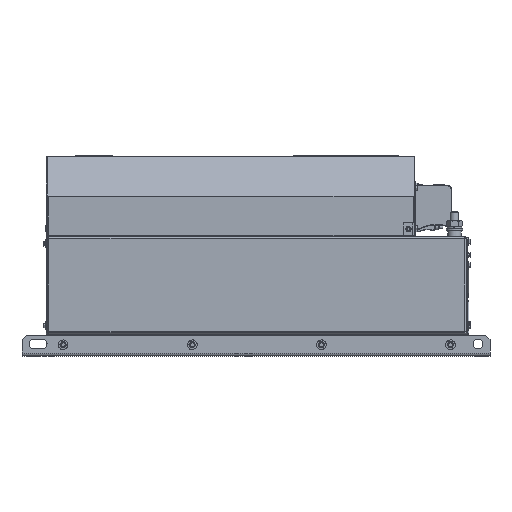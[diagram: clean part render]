
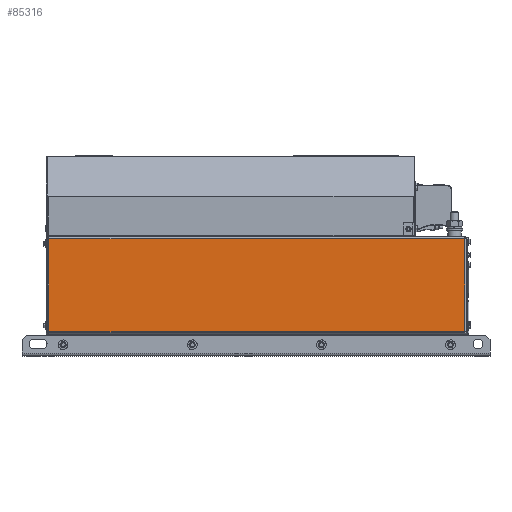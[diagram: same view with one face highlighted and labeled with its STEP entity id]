
A CAD part, left-side view. The second image highlights one B-rep face of the part: STEP entity #85316.
In plain terms, the highlighted planar face has unit normal (-1, 0, 0).
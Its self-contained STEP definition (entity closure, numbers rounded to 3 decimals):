
#5007=PLANE('',#92120);
#11093=FACE_OUTER_BOUND('',#16147,.T.);
#16147=EDGE_LOOP('',(#74885,#74886,#74887,#74888));
#23324=LINE('',#175700,#30477);
#23327=LINE('',#175709,#30480);
#23328=LINE('',#175713,#30481);
#23329=LINE('',#175714,#30482);
#30477=VECTOR('',#112230,10.);
#30480=VECTOR('',#112243,10.);
#30481=VECTOR('',#112248,10.);
#30482=VECTOR('',#112249,10.);
#40561=VERTEX_POINT('',#174898);
#40700=VERTEX_POINT('',#175530);
#40709=VERTEX_POINT('',#175694);
#40711=VERTEX_POINT('',#175712);
#52247=EDGE_CURVE('',#40700,#40709,#23324,.T.);
#52252=EDGE_CURVE('',#40709,#40561,#23327,.T.);
#52254=EDGE_CURVE('',#40700,#40711,#23328,.T.);
#52255=EDGE_CURVE('',#40711,#40561,#23329,.T.);
#74885=ORIENTED_EDGE('',*,*,#52247,.F.);
#74886=ORIENTED_EDGE('',*,*,#52254,.T.);
#74887=ORIENTED_EDGE('',*,*,#52255,.T.);
#74888=ORIENTED_EDGE('',*,*,#52252,.F.);
#85316=ADVANCED_FACE('',(#11093),#5007,.F.);
#92120=AXIS2_PLACEMENT_3D('',#175711,#112246,#112247);
#112230=DIRECTION('',(0.,0.,-1.));
#112243=DIRECTION('',(0.,1.,0.));
#112246=DIRECTION('center_axis',(1.,0.,0.));
#112247=DIRECTION('ref_axis',(0.,0.,
-1.));
#112248=DIRECTION('',(0.,1.,0.));
#112249=DIRECTION('',(0.,0.,-1.));
#174898=CARTESIAN_POINT('',(-140.,256.7,30.453));
#175530=CARTESIAN_POINT('',(-140.,-258.7,145.7));
#175694=CARTESIAN_POINT('',(-140.,-258.7,30.453));
#175700=CARTESIAN_POINT('',(-140.,-258.7,133.71));
#175709=CARTESIAN_POINT('',(-140.,-261.,30.453));
#175711=CARTESIAN_POINT('Origin',(-140.,-261.,29.5));
#175712=CARTESIAN_POINT('',(-140.,256.7,145.7));
#175713=CARTESIAN_POINT('',(-140.,259.,145.7));
#175714=CARTESIAN_POINT('',(-140.,256.7,81.6));
